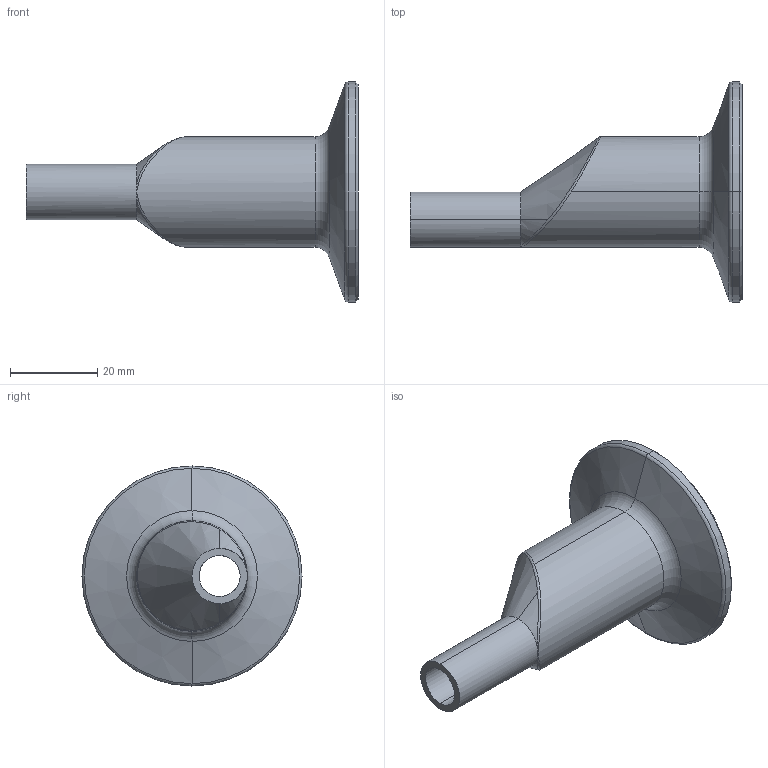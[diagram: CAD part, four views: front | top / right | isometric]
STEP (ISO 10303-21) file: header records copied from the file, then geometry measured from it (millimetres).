
FILE_DESCRIPTION (( 'STEP AP214' ), '1' );
FILE_NAME ('TE32SCW6L1.0x.5-...STEP', '2016-06-01T08:50:01', ( 'eran' ), ( '' ), 'SwSTEP 2.0', 'SolidWorks 2016', '' );
FILE_SCHEMA (( 'AUTOMOTIVE_DESIGN' ));
Length unit declared in the file: millimetre
Products named in the file (1): TE32SCW6L1.0x.5-..
Bounding box: 76.2 x 50.5 x 50.5 mm (x, y, z)
Volume: 22055 mm3; surface area: 11216.8 mm2
Topology: 1 solids, 1 shells, 53 faces, 118 edges, 64 vertices
Faces by surface type: cone 19, torus 13, cylinder 13, bspline 5, plane 3
Entity records: 2213 total; most frequent: CARTESIAN_POINT 1050, DIRECTION 252, ORIENTED_EDGE 228, EDGE_CURVE 114, AXIS2_PLACEMENT_3D 112, VERTEX_POINT 64, CIRCLE 63, EDGE_LOOP 56
